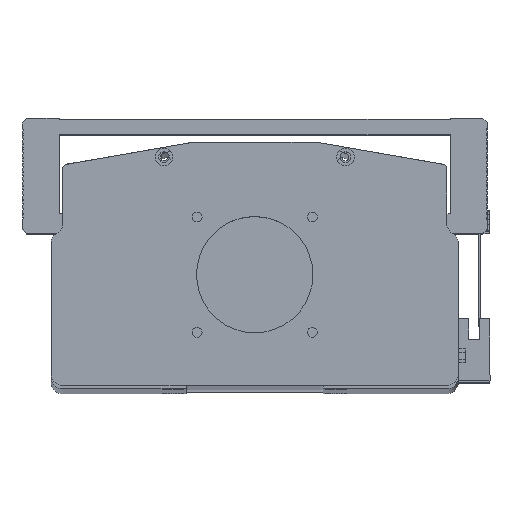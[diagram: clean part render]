
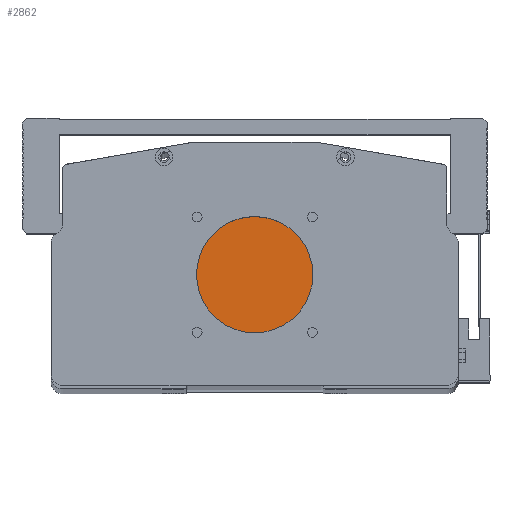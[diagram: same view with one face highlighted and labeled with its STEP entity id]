
A CAD part, top view. The second image highlights one B-rep face of the part: STEP entity #2862.
In plain terms, the highlighted planar face has unit normal (0, 0, 1).
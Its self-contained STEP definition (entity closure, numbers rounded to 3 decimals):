
#1857 = DIRECTION ( 'NONE',  ( 0., 0., 1. ) ) ;
#2862 = ADVANCED_FACE ( 'NONE', ( #15495 ), #22951, .T. ) ;
#5558 = CARTESIAN_POINT ( 'NONE',  ( 62.5, 47.5, 0. ) ) ;
#6934 = CARTESIAN_POINT ( 'NONE',  ( 0., 0., 0. ) ) ;
#9060 = CARTESIAN_POINT ( 'NONE',  ( 87.5, 47.5, 0. ) ) ;
#9484 = EDGE_CURVE ( 'NONE', #31168, #13801, #17745, .T. ) ;
#9639 = DIRECTION ( 'NONE',  ( 1., 0., 0. ) ) ;
#11773 = DIRECTION ( 'NONE',  ( 1., 0., 0. ) ) ;
#13801 = VERTEX_POINT ( 'NONE', #5558 ) ;
#15495 = FACE_OUTER_BOUND ( 'NONE', #31795, .T. ) ;
#17635 = CIRCLE ( 'NONE', #32683, 25. ) ;
#17745 = CIRCLE ( 'NONE', #29296, 25. ) ;
#17958 = CARTESIAN_POINT ( 'NONE',  ( 87.5, 47.5, 0. ) ) ;
#20642 = DIRECTION ( 'NONE',  ( 1., 0., 0. ) ) ;
#21011 = ORIENTED_EDGE ( 'NONE', *, *, #9484, .T. ) ;
#22951 = PLANE ( 'NONE',  #29892 ) ;
#25755 = DIRECTION ( 'NONE',  ( 0., 0., 1. ) ) ;
#26982 = ORIENTED_EDGE ( 'NONE', *, *, #29081, .T. ) ;
#27886 = DIRECTION ( 'NONE',  ( 0., 0., 1. ) ) ;
#29081 = EDGE_CURVE ( 'NONE', #13801, #31168, #17635, .T. ) ;
#29296 = AXIS2_PLACEMENT_3D ( 'NONE', #9060, #27886, #11773 ) ;
#29305 = CARTESIAN_POINT ( 'NONE',  ( 112.5, 47.5, 0. ) ) ;
#29892 = AXIS2_PLACEMENT_3D ( 'NONE', #6934, #25755, #9639 ) ;
#31168 = VERTEX_POINT ( 'NONE', #29305 ) ;
#31795 = EDGE_LOOP ( 'NONE', ( #26982, #21011 ) ) ;
#32683 = AXIS2_PLACEMENT_3D ( 'NONE', #17958, #1857, #20642 ) ;
